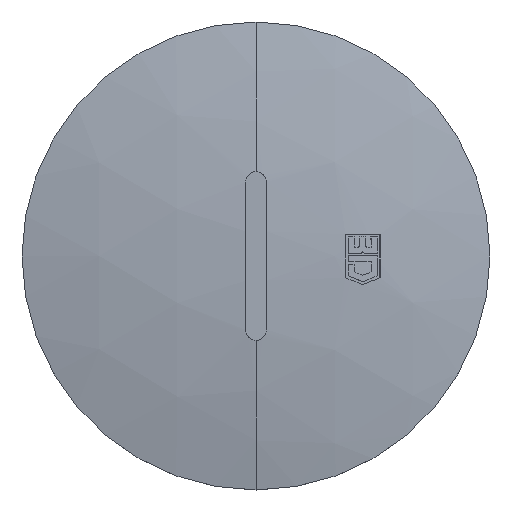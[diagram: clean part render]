
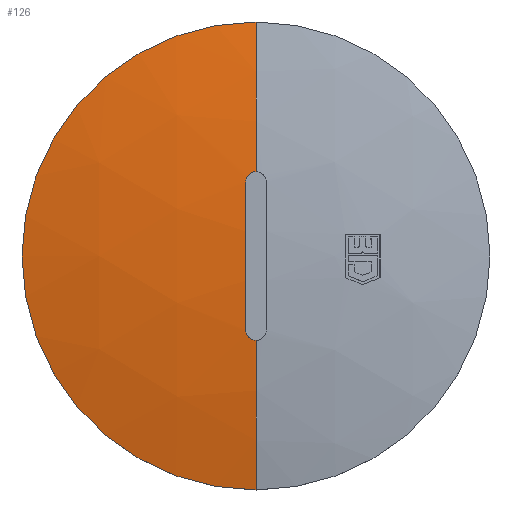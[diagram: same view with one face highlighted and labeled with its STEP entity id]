
A CAD part, top view. The second image highlights one B-rep face of the part: STEP entity #126.
In plain terms, the highlighted spherical face has radius 129.843 mm.
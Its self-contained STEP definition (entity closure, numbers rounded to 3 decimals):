
#126 = ADVANCED_FACE ( 'NONE', ( #827 ), #826, .T. ) ;
#127 = ORIENTED_EDGE ( 'NONE', *, *, #144, .F. ) ;
#128 = ORIENTED_EDGE ( 'NONE', *, *, #233, .T. ) ;
#144 = EDGE_CURVE ( 'NONE', #147, #492, #851, .T. ) ;
#147 = VERTEX_POINT ( 'NONE', #912 ) ;
#171 = ORIENTED_EDGE ( 'NONE', *, *, #203, .T. ) ;
#186 = EDGE_CURVE ( 'NONE', #228, #200, #963, .T. ) ;
#188 = ORIENTED_EDGE ( 'NONE', *, *, #186, .T. ) ;
#199 = EDGE_CURVE ( 'NONE', #492, #491, #992, .T. ) ;
#200 = VERTEX_POINT ( 'NONE', #987 ) ;
#203 = EDGE_CURVE ( 'NONE', #200, #491, #984, .T. ) ;
#205 = EDGE_LOOP ( 'NONE', ( #127, #128, #220, #188, #171, #243 ) ) ;
#219 = VERTEX_POINT ( 'NONE', #1019 ) ;
#220 = ORIENTED_EDGE ( 'NONE', *, *, #229, .T. ) ;
#228 = VERTEX_POINT ( 'NONE', #1068 ) ;
#229 = EDGE_CURVE ( 'NONE', #219, #228, #1063, .T. ) ;
#233 = EDGE_CURVE ( 'NONE', #147, #219, #1052, .T. ) ;
#243 = ORIENTED_EDGE ( 'NONE', *, *, #199, .F. ) ;
#491 = VERTEX_POINT ( 'NONE', #1458 ) ;
#492 = VERTEX_POINT ( 'NONE', #1457 ) ;
#822 = DIRECTION ( 'NONE',  ( 0., 1., 0. ) ) ;
#823 = DIRECTION ( 'NONE',  ( 1., 0., 0. ) ) ;
#824 = CARTESIAN_POINT ( 'NONE',  ( 0., 0., -114.843 ) ) ;
#825 = AXIS2_PLACEMENT_3D ( 'NONE', #824, #823, #822 ) ;
#826 = SPHERICAL_SURFACE ( 'NONE', #825, 129.843 ) ;
#827 = FACE_OUTER_BOUND ( 'NONE', #205, .T. ) ;
#847 = DIRECTION ( 'NONE',  ( 0., 1., 0. ) ) ;
#848 = DIRECTION ( 'NONE',  ( 1., 0., 0. ) ) ;
#849 = CARTESIAN_POINT ( 'NONE',  ( 0., 0., -114.843 ) ) ;
#850 = AXIS2_PLACEMENT_3D ( 'NONE', #849, #848, #847 ) ;
#851 = CIRCLE ( 'NONE', #850, 129.843 ) ;
#912 = CARTESIAN_POINT ( 'NONE',  ( 0., -10., 14.614 ) ) ;
#946 = CARTESIAN_POINT ( 'NONE',  ( 0., 10., 14.614 ) ) ;
#947 = CARTESIAN_POINT ( 'NONE',  ( -0.163, 10., 14.614 ) ) ;
#948 = CARTESIAN_POINT ( 'NONE',  ( -0.328, 9.967, 14.617 ) ) ;
#949 = CARTESIAN_POINT ( 'NONE',  ( -0.629, 9.842, 14.625 ) ) ;
#950 = CARTESIAN_POINT ( 'NONE',  ( -0.769, 9.749, 14.631 ) ) ;
#951 = CARTESIAN_POINT ( 'NONE',  ( -0.942, 9.576, 14.643 ) ) ;
#952 = CARTESIAN_POINT ( 'NONE',  ( -0.995, 9.512, 14.647 ) ) ;
#953 = CARTESIAN_POINT ( 'NONE',  ( -1.085, 9.376, 14.657 ) ) ;
#954 = CARTESIAN_POINT ( 'NONE',  ( -1.124, 9.304, 14.661 ) ) ;
#955 = CARTESIAN_POINT ( 'NONE',  ( -1.218, 9.077, 14.677 ) ) ;
#956 = CARTESIAN_POINT ( 'NONE',  ( -1.25, 8.915, 14.688 ) ) ;
#957 = CARTESIAN_POINT ( 'NONE',  ( -1.25, 8.75, 14.699 ) ) ;
#963 = B_SPLINE_CURVE_WITH_KNOTS ( 'NONE', 3,
 ( #957, #956, #955, #954, #953, #952, #951, #950, #949, #948, #947, #946 ),
 .UNSPECIFIED., .F., .F.,
 ( 4, 2, 2, 2, 2, 4 ),
 ( 0., 0., 0.001, 0.001, 0.001, 0.002 ),
 .UNSPECIFIED. ) ;
#980 = DIRECTION ( 'NONE',  ( 0., 0., 1. ) ) ;
#981 = DIRECTION ( 'NONE',  ( -1., 0., 0. ) ) ;
#982 = CARTESIAN_POINT ( 'NONE',  ( 0., 0., -114.843 ) ) ;
#983 = AXIS2_PLACEMENT_3D ( 'NONE', #982, #981, #980 ) ;
#984 = CIRCLE ( 'NONE', #983, 129.843 ) ;
#987 = CARTESIAN_POINT ( 'NONE',  ( 0., 10., 14.614 ) ) ;
#988 = DIRECTION ( 'NONE',  ( 0., 1., 0. ) ) ;
#989 = DIRECTION ( 'NONE',  ( 0., 0., -1. ) ) ;
#990 = CARTESIAN_POINT ( 'NONE',  ( 0., 0., 12. ) ) ;
#991 = AXIS2_PLACEMENT_3D ( 'NONE', #990, #989, #988 ) ;
#992 = CIRCLE ( 'NONE', #991, 27.75 ) ;
#1019 = CARTESIAN_POINT ( 'NONE',  ( -1.25, -8.75, 14.699 ) ) ;
#1043 = CARTESIAN_POINT ( 'NONE',  ( -0.767, -9.75, 14.631 ) ) ;
#1044 = CARTESIAN_POINT ( 'NONE',  ( -0.63, -9.842, 14.625 ) ) ;
#1045 = CARTESIAN_POINT ( 'NONE',  ( -0.327, -9.968, 14.617 ) ) ;
#1046 = CARTESIAN_POINT ( 'NONE',  ( -0.163, -10., 14.614 ) ) ;
#1047 = CARTESIAN_POINT ( 'NONE',  ( 0., -10., 14.614 ) ) ;
#1052 = B_SPLINE_CURVE_WITH_KNOTS ( 'NONE', 3,
 ( #1047, #1046, #1045, #1044, #1043, #1107, #1106, #1105, #1104, #1103 ),
 .UNSPECIFIED., .F., .F.,
 ( 4, 2, 2, 2, 4 ),
 ( 0.002, 0.002, 0.003, 0.003, 0.004 ),
 .UNSPECIFIED. ) ;
#1059 = DIRECTION ( 'NONE',  ( 0., 0., -1. ) ) ;
#1060 = DIRECTION ( 'NONE',  ( -1., 0., 0. ) ) ;
#1061 = CARTESIAN_POINT ( 'NONE',  ( -1.25, 0., -114.843 ) ) ;
#1062 = AXIS2_PLACEMENT_3D ( 'NONE', #1061, #1060, #1059 ) ;
#1063 = CIRCLE ( 'NONE', #1062, 129.837 ) ;
#1068 = CARTESIAN_POINT ( 'NONE',  ( -1.25, 8.75, 14.699 ) ) ;
#1103 = CARTESIAN_POINT ( 'NONE',  ( -1.25, -8.75, 14.699 ) ) ;
#1104 = CARTESIAN_POINT ( 'NONE',  ( -1.25, -8.915, 14.688 ) ) ;
#1105 = CARTESIAN_POINT ( 'NONE',  ( -1.218, -9.077, 14.677 ) ) ;
#1106 = CARTESIAN_POINT ( 'NONE',  ( -1.092, -9.38, 14.656 ) ) ;
#1107 = CARTESIAN_POINT ( 'NONE',  ( -1.001, -9.517, 14.647 ) ) ;
#1457 = CARTESIAN_POINT ( 'NONE',  ( 0., -27.75, 12. ) ) ;
#1458 = CARTESIAN_POINT ( 'NONE',  ( 0., 27.75, 12. ) ) ;
